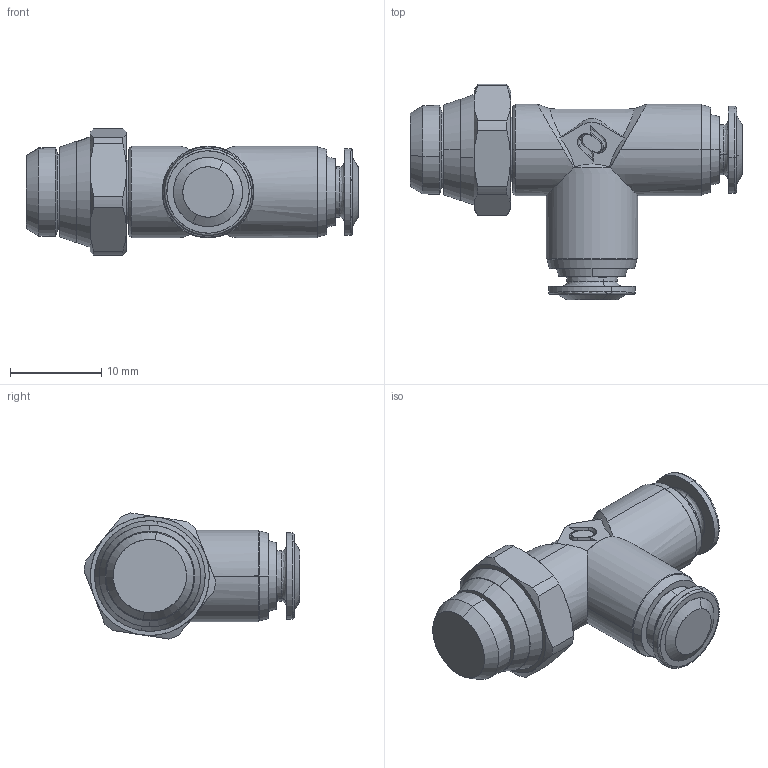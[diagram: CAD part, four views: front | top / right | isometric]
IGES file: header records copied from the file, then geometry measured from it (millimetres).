
Start section: SolidWorks IGES file using analytic representation for surfaces
Global section: file name: K:\Disegni Esecutivi\ALPHA TECHNOLOGIES\Assiemi-89000\89223\89223_iges\8922300003A.igs; native system: SolidWorks 2011; preprocessor: SolidWorks 2011; author: cad05; date: 110221.090750; units: millimetre
Bounding box: 36.3 x 23.58 x 13.78 mm (x, y, z)
Surface area: 2097.7 mm2 (no closed solid volume)
Topology: 0 solids, 0 shells, 145 faces, 2146 edges, 2146 vertices
Faces by surface type: revolution 79, bspline 66
